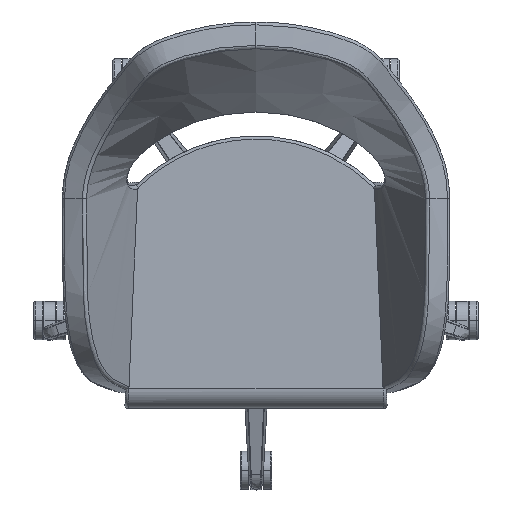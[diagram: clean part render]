
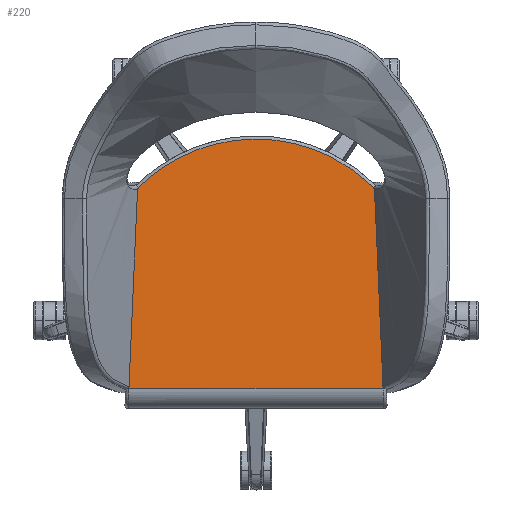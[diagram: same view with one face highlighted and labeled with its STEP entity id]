
A CAD part, top view. The second image highlights one B-rep face of the part: STEP entity #220.
In plain terms, the highlighted planar face has unit normal (0, 0.026, 1).
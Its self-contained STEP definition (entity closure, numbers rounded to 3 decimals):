
#220=ADVANCED_FACE('',(#554),#4806,.T.);
#554=FACE_OUTER_BOUND('',#888,.T.);
#888=EDGE_LOOP('',(#1655,#1656,#1657,#1658,#1659,#1660));
#1655=ORIENTED_EDGE('',*,*,#2826,.T.);
#1656=ORIENTED_EDGE('',*,*,#2856,.T.);
#1657=ORIENTED_EDGE('',*,*,#2849,.T.);
#1658=ORIENTED_EDGE('',*,*,#2852,.T.);
#1659=ORIENTED_EDGE('',*,*,#2843,.T.);
#1660=ORIENTED_EDGE('',*,*,#2805,.F.);
#2805=EDGE_CURVE('',#4237,#4240,#3924,.T.);
#2826=EDGE_CURVE('',#4237,#4238,#3387,.T.);
#2843=EDGE_CURVE('',#4239,#4240,#3404,.T.);
#2849=EDGE_CURVE('',#4241,#4242,#3410,.T.);
#2852=EDGE_CURVE('',#4242,#4239,#3413,.T.);
#2856=EDGE_CURVE('',#4238,#4241,#3417,.T.);
#3387=(
BOUNDED_CURVE()
B_SPLINE_CURVE(1,(#11266,#11267),.UNSPECIFIED.,.F.,.F.)
B_SPLINE_CURVE_WITH_KNOTS((2,2),(0.217,311.552),
 .UNSPECIFIED.)
CURVE()
GEOMETRIC_REPRESENTATION_ITEM()
RATIONAL_B_SPLINE_CURVE((1.,1.))
REPRESENTATION_ITEM('')
);
#3404=(
BOUNDED_CURVE()
B_SPLINE_CURVE(1,(#11345,#11346),.UNSPECIFIED.,.F.,.F.)
B_SPLINE_CURVE_WITH_KNOTS((2,2),(0.,311.335),.UNSPECIFIED.)
CURVE()
GEOMETRIC_REPRESENTATION_ITEM()
RATIONAL_B_SPLINE_CURVE((1.,1.))
REPRESENTATION_ITEM('')
);
#3410=(
BOUNDED_CURVE()
B_SPLINE_CURVE(3,(#11368,#11369,#11370,#11371,#11372,#11373,#11374,#11375,
#11376),.UNSPECIFIED.,.F.,.F.)
B_SPLINE_CURVE_WITH_KNOTS((4,1,1,1,1,1,4),(0.,87.476,
145.46,203.877,262.294,320.278,407.755),
 .UNSPECIFIED.)
CURVE()
GEOMETRIC_REPRESENTATION_ITEM()
RATIONAL_B_SPLINE_CURVE((1.,1.,1.,1.,1.,1.,
1.,1.,1.))
REPRESENTATION_ITEM('')
);
#3413=(
BOUNDED_CURVE()
B_SPLINE_CURVE(3,(#11384,#11385,#11386,#11387),.UNSPECIFIED.,.F.,.F.)
B_SPLINE_CURVE_WITH_KNOTS((4,4),(0.,3.725),.UNSPECIFIED.)
CURVE()
GEOMETRIC_REPRESENTATION_ITEM()
RATIONAL_B_SPLINE_CURVE((1.,1.,1.,1.))
REPRESENTATION_ITEM('')
);
#3417=(
BOUNDED_CURVE()
B_SPLINE_CURVE(3,(#11400,#11401,#11402,#11403),.UNSPECIFIED.,.F.,.F.)
B_SPLINE_CURVE_WITH_KNOTS((4,4),(0.,3.725),
 .UNSPECIFIED.)
CURVE()
GEOMETRIC_REPRESENTATION_ITEM()
RATIONAL_B_SPLINE_CURVE((1.,1.,1.,1.))
REPRESENTATION_ITEM('')
);
#3924=B_SPLINE_CURVE_WITH_KNOTS('',1,(#11196,#11197),.UNSPECIFIED.,.F.,
 .F.,(2,2),(6.309,403.691),.UNSPECIFIED.);
#4237=VERTEX_POINT('',#11166);
#4238=VERTEX_POINT('',#11167);
#4239=VERTEX_POINT('',#11168);
#4240=VERTEX_POINT('',#11169);
#4241=VERTEX_POINT('',#11170);
#4242=VERTEX_POINT('',#11171);
#4806=PLANE('',#4974);
#4974=AXIS2_PLACEMENT_3D('',#10870,#5059,$);
#5059=DIRECTION('',(0.,0.026,1.));
#10870=CARTESIAN_POINT('',(256.25,254.834,468.879));
#11166=CARTESIAN_POINT('',(198.691,-193.301,480.634));
#11167=CARTESIAN_POINT('',(185.173,117.633,472.478));
#11168=CARTESIAN_POINT('',(-185.173,117.633,472.478));
#11169=CARTESIAN_POINT('',(-198.691,-193.301,480.634));
#11170=CARTESIAN_POINT('',(183.703,120.962,472.391));
#11171=CARTESIAN_POINT('',(-183.703,120.962,472.391));
#11196=CARTESIAN_POINT('',(198.691,-193.301,480.634));
#11197=CARTESIAN_POINT('',(-198.691,-193.301,480.634));
#11266=CARTESIAN_POINT('',(198.691,-193.301,480.634));
#11267=CARTESIAN_POINT('',(185.173,117.633,472.478));
#11345=CARTESIAN_POINT('',(-185.173,117.633,472.478));
#11346=CARTESIAN_POINT('',(-198.691,-193.301,480.634));
#11368=CARTESIAN_POINT('',(183.703,120.962,472.391));
#11369=CARTESIAN_POINT('',(163.031,141.522,471.851));
#11370=CARTESIAN_POINT('',(122.845,169.845,471.108));
#11371=CARTESIAN_POINT('',(58.271,192.343,470.518));
#11372=CARTESIAN_POINT('',(0.,198.906,470.346));
#11373=CARTESIAN_POINT('',(-58.271,192.343,470.518));
#11374=CARTESIAN_POINT('',(-122.845,169.845,471.108));
#11375=CARTESIAN_POINT('',(-163.031,141.522,471.851));
#11376=CARTESIAN_POINT('',(-183.703,120.962,472.391));
#11384=CARTESIAN_POINT('',(-183.703,120.962,472.391));
#11385=CARTESIAN_POINT('',(-184.587,120.088,472.413));
#11386=CARTESIAN_POINT('',(-185.123,118.875,472.445));
#11387=CARTESIAN_POINT('',(-185.173,117.633,472.478));
#11400=CARTESIAN_POINT('',(185.173,117.633,472.478));
#11401=CARTESIAN_POINT('',(185.123,118.875,472.445));
#11402=CARTESIAN_POINT('',(184.587,120.088,472.413));
#11403=CARTESIAN_POINT('',(183.703,120.962,472.391));
